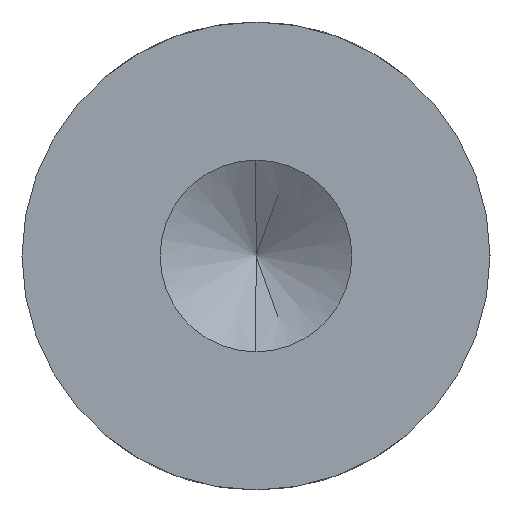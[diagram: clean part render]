
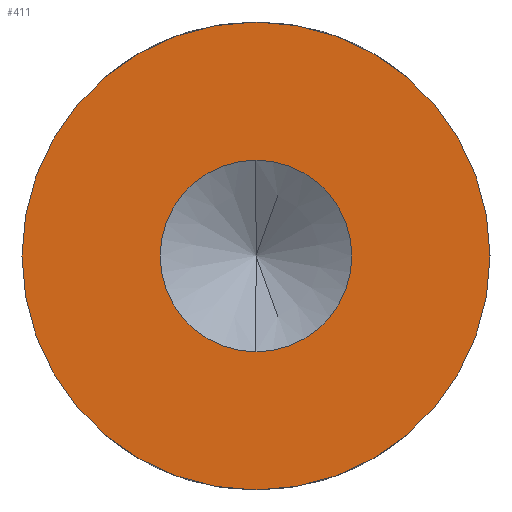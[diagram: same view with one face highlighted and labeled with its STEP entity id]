
A CAD part, left-side view. The second image highlights one B-rep face of the part: STEP entity #411.
In plain terms, the highlighted planar face has unit normal (-1, 0, 0).
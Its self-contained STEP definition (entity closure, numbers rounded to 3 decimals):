
#15 = AXIS2_PLACEMENT_3D ( 'NONE', #217, #268, #315 ) ;
#17 = CARTESIAN_POINT ( 'NONE',  ( -78.875, 0., 0. ) ) ;
#25 = PLANE ( 'NONE',  #73 ) ;
#35 = CARTESIAN_POINT ( 'NONE',  ( -78.875, 0., 6. ) ) ;
#42 = CARTESIAN_POINT ( 'NONE',  ( -78.875, 0., 0. ) ) ;
#46 = DIRECTION ( 'NONE',  ( 1., 0., 0. ) ) ;
#72 = FACE_OUTER_BOUND ( 'NONE', #343, .T. ) ;
#73 = AXIS2_PLACEMENT_3D ( 'NONE', #156, #46, #500 ) ;
#75 = VERTEX_POINT ( 'NONE', #459 ) ;
#91 = DIRECTION ( 'NONE',  ( 1., 0., 0. ) ) ;
#110 = ORIENTED_EDGE ( 'NONE', *, *, #133, .F. ) ;
#118 = VERTEX_POINT ( 'NONE', #264 ) ;
#133 = EDGE_CURVE ( 'NONE', #336, #520, #219, .T. ) ;
#156 = CARTESIAN_POINT ( 'NONE',  ( -78.875, 0., 0. ) ) ;
#217 = CARTESIAN_POINT ( 'NONE',  ( -78.875, 0., 0. ) ) ;
#219 = CIRCLE ( 'NONE', #604, 6. ) ;
#238 = AXIS2_PLACEMENT_3D ( 'NONE', #464, #91, #613 ) ;
#264 = CARTESIAN_POINT ( 'NONE',  ( -78.875, 0., -2.458 ) ) ;
#268 = DIRECTION ( 'NONE',  ( -1., 0., 0. ) ) ;
#270 = CIRCLE ( 'NONE', #289, 2.458 ) ;
#272 = ORIENTED_EDGE ( 'NONE', *, *, #357, .F. ) ;
#280 = CIRCLE ( 'NONE', #15, 2.458 ) ;
#289 = AXIS2_PLACEMENT_3D ( 'NONE', #17, #419, #412 ) ;
#299 = ORIENTED_EDGE ( 'NONE', *, *, #437, .F. ) ;
#315 = DIRECTION ( 'NONE',  ( 0., 0., 1. ) ) ;
#336 = VERTEX_POINT ( 'NONE', #373 ) ;
#343 = EDGE_LOOP ( 'NONE', ( #272, #110 ) ) ;
#357 = EDGE_CURVE ( 'NONE', #520, #336, #376, .T. ) ;
#373 = CARTESIAN_POINT ( 'NONE',  ( -78.875, 0., -6. ) ) ;
#376 = CIRCLE ( 'NONE', #238, 6. ) ;
#410 = ORIENTED_EDGE ( 'NONE', *, *, #555, .F. ) ;
#411 = ADVANCED_FACE ( 'NONE', ( #493, #72 ), #25, .F. ) ;
#412 = DIRECTION ( 'NONE',  ( 0., 0., 1. ) ) ;
#419 = DIRECTION ( 'NONE',  ( -1., 0., 0. ) ) ;
#437 = EDGE_CURVE ( 'NONE', #118, #75, #280, .T. ) ;
#459 = CARTESIAN_POINT ( 'NONE',  ( -78.875, 0., 2.458 ) ) ;
#464 = CARTESIAN_POINT ( 'NONE',  ( -78.875, 0., 0. ) ) ;
#474 = DIRECTION ( 'NONE',  ( 0., 0., -1. ) ) ;
#493 = FACE_BOUND ( 'NONE', #512, .T. ) ;
#500 = DIRECTION ( 'NONE',  ( 0., 0., -1. ) ) ;
#512 = EDGE_LOOP ( 'NONE', ( #410, #299 ) ) ;
#520 = VERTEX_POINT ( 'NONE', #35 ) ;
#555 = EDGE_CURVE ( 'NONE', #75, #118, #270, .T. ) ;
#604 = AXIS2_PLACEMENT_3D ( 'NONE', #42, #606, #474 ) ;
#606 = DIRECTION ( 'NONE',  ( 1., 0., 0. ) ) ;
#613 = DIRECTION ( 'NONE',  ( 0., 0., -1. ) ) ;
